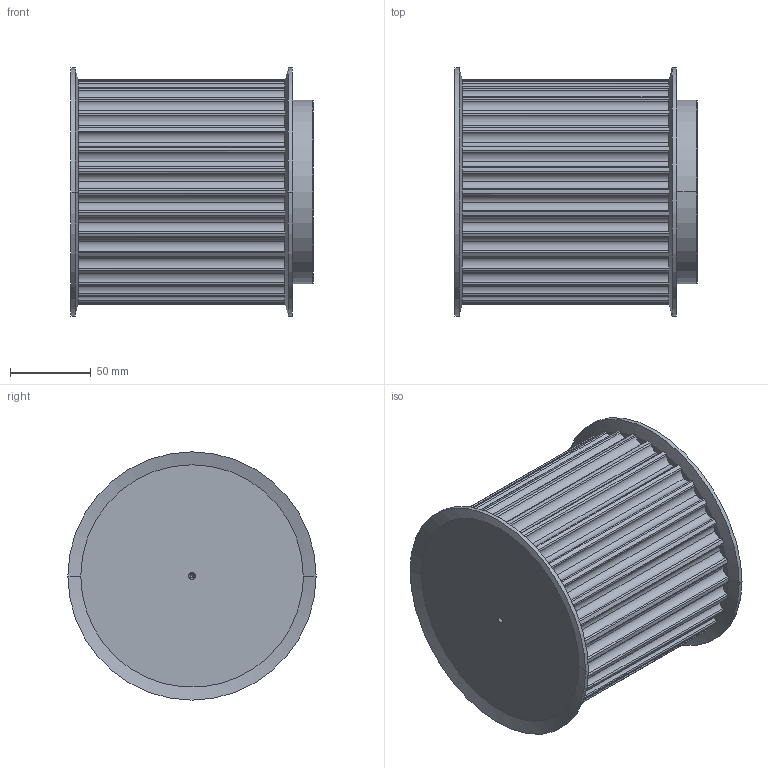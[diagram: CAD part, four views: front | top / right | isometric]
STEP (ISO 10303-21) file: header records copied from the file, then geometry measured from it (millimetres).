
FILE_DESCRIPTION(('STEP AP203'),'1');
FILE_NAME('32_-_14_m_115.stp','2019-11-26T07:23:59',('TraceParts'),('TraceParts S.A.'),'Spatial InterOp 3D',' ',' ');
FILE_SCHEMA(('CONFIG_CONTROL_DESIGN'));
Length unit declared in the file: millimetre
Products named in the file (1): 1
Bounding box: 150.14 x 154 x 154 mm (x, y, z)
Volume: 2071931.8 mm3; surface area: 127208.5 mm2
Topology: 1 solids, 1 shells, 255 faces, 742 edges, 488 vertices
Faces by surface type: cylinder 170, plane 67, cone 18
Entity records: 9558 total; most frequent: CARTESIAN_POINT 3018, ORIENTED_EDGE 1476, DIRECTION 1288, EDGE_CURVE 738, AXIS2_PLACEMENT_3D 550, VERTEX_POINT 488, CIRCLE 294, EDGE_LOOP 258
